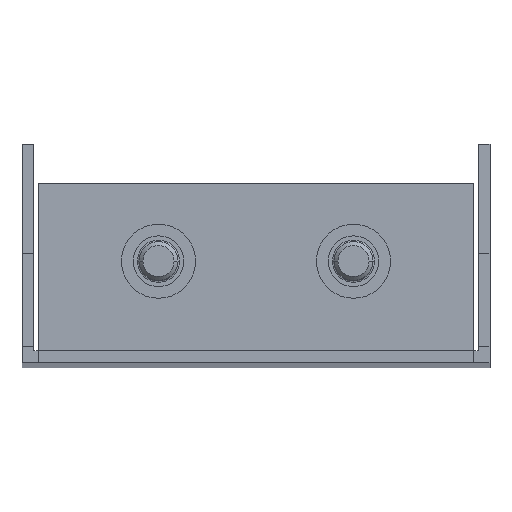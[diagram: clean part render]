
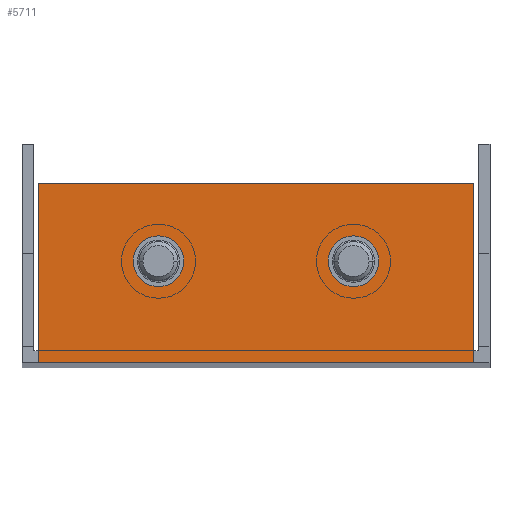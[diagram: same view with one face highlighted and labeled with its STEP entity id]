
A CAD part, top view. The second image highlights one B-rep face of the part: STEP entity #5711.
In plain terms, the highlighted planar face has unit normal (0, 0, 1).
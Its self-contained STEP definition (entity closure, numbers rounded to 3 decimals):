
#1570 = VERTEX_POINT('',#1571);
#1571 = CARTESIAN_POINT('',(-9.25,13.,194.5));
#1577 = EDGE_CURVE('',#1578,#1570,#1580,.T.);
#1578 = VERTEX_POINT('',#1579);
#1579 = CARTESIAN_POINT('',(-15.75,13.,194.5));
#1580 = CIRCLE('',#1581,3.25);
#1581 = AXIS2_PLACEMENT_3D('',#1582,#1583,#1584);
#1582 = CARTESIAN_POINT('',(-12.5,13.,194.5));
#1583 = DIRECTION('',(0.,0.,1.));
#1584 = DIRECTION('',(1.,0.,-0.));
#1612 = VERTEX_POINT('',#1613);
#1613 = CARTESIAN_POINT('',(15.75,13.,194.5));
#1619 = EDGE_CURVE('',#1620,#1612,#1622,.T.);
#1620 = VERTEX_POINT('',#1621);
#1621 = CARTESIAN_POINT('',(9.25,13.,194.5));
#1622 = CIRCLE('',#1623,3.25);
#1623 = AXIS2_PLACEMENT_3D('',#1624,#1625,#1626);
#1624 = CARTESIAN_POINT('',(12.5,13.,194.5));
#1625 = DIRECTION('',(0.,0.,1.));
#1626 = DIRECTION('',(-1.,0.,0.));
#3709 = VERTEX_POINT('',#3710);
#3710 = CARTESIAN_POINT('',(-27.9,0.,194.5));
#3780 = VERTEX_POINT('',#3781);
#3781 = CARTESIAN_POINT('',(27.9,0.,194.5));
#3787 = EDGE_CURVE('',#3709,#3780,#3788,.T.);
#3788 = LINE('',#3789,#3790);
#3789 = CARTESIAN_POINT('',(-30.,0.,194.5));
#3790 = VECTOR('',#3791,1.);
#3791 = DIRECTION('',(1.,0.,0.));
#5590 = VERTEX_POINT('',#5591);
#5591 = CARTESIAN_POINT('',(-27.9,2.1,194.5));
#5606 = EDGE_CURVE('',#5590,#3709,#5607,.T.);
#5607 = LINE('',#5608,#5609);
#5608 = CARTESIAN_POINT('',(-27.9,2.1,194.5));
#5609 = VECTOR('',#5610,1.);
#5610 = DIRECTION('',(0.,-1.,0.));
#5630 = VERTEX_POINT('',#5631);
#5631 = CARTESIAN_POINT('',(27.9,2.1,194.5));
#5637 = EDGE_CURVE('',#5630,#3780,#5638,.T.);
#5638 = LINE('',#5639,#5640);
#5639 = CARTESIAN_POINT('',(27.9,0.,194.5));
#5640 = VECTOR('',#5641,1.);
#5641 = DIRECTION('',(-0.,-1.,-0.));
#5663 = VERTEX_POINT('',#5664);
#5664 = CARTESIAN_POINT('',(27.9,23.,194.5));
#5670 = EDGE_CURVE('',#5630,#5663,#5671,.T.);
#5671 = LINE('',#5672,#5673);
#5672 = CARTESIAN_POINT('',(27.9,0.,194.5));
#5673 = VECTOR('',#5674,1.);
#5674 = DIRECTION('',(0.,1.,0.));
#5685 = EDGE_CURVE('',#5686,#5590,#5688,.T.);
#5686 = VERTEX_POINT('',#5687);
#5687 = CARTESIAN_POINT('',(-27.9,23.,194.5));
#5688 = LINE('',#5689,#5690);
#5689 = CARTESIAN_POINT('',(-27.9,0.,194.5));
#5690 = VECTOR('',#5691,1.);
#5691 = DIRECTION('',(0.,-1.,0.));
#5711 = ADVANCED_FACE('',(#5712,#5722,#5732),#5745,.F.);
#5712 = FACE_BOUND('',#5713,.T.);
#5713 = EDGE_LOOP('',(#5714,#5721));
#5714 = ORIENTED_EDGE('',*,*,#5715,.F.);
#5715 = EDGE_CURVE('',#1570,#1578,#5716,.T.);
#5716 = CIRCLE('',#5717,3.25);
#5717 = AXIS2_PLACEMENT_3D('',#5718,#5719,#5720);
#5718 = CARTESIAN_POINT('',(-12.5,13.,194.5));
#5719 = DIRECTION('',(0.,0.,1.));
#5720 = DIRECTION('',(1.,0.,-0.));
#5721 = ORIENTED_EDGE('',*,*,#1577,.F.);
#5722 = FACE_BOUND('',#5723,.T.);
#5723 = EDGE_LOOP('',(#5724,#5731));
#5724 = ORIENTED_EDGE('',*,*,#5725,.F.);
#5725 = EDGE_CURVE('',#1612,#1620,#5726,.T.);
#5726 = CIRCLE('',#5727,3.25);
#5727 = AXIS2_PLACEMENT_3D('',#5728,#5729,#5730);
#5728 = CARTESIAN_POINT('',(12.5,13.,194.5));
#5729 = DIRECTION('',(0.,0.,1.));
#5730 = DIRECTION('',(-1.,0.,0.));
#5731 = ORIENTED_EDGE('',*,*,#1619,.F.);
#5732 = FACE_BOUND('',#5733,.T.);
#5733 = EDGE_LOOP('',(#5734,#5735,#5736,#5737,#5738,#5739));
#5734 = ORIENTED_EDGE('',*,*,#5685,.T.);
#5735 = ORIENTED_EDGE('',*,*,#5606,.T.);
#5736 = ORIENTED_EDGE('',*,*,#3787,.T.);
#5737 = ORIENTED_EDGE('',*,*,#5637,.F.);
#5738 = ORIENTED_EDGE('',*,*,#5670,.T.);
#5739 = ORIENTED_EDGE('',*,*,#5740,.T.);
#5740 = EDGE_CURVE('',#5663,#5686,#5741,.T.);
#5741 = LINE('',#5742,#5743);
#5742 = CARTESIAN_POINT('',(0.,23.,194.5));
#5743 = VECTOR('',#5744,1.);
#5744 = DIRECTION('',(-1.,0.,0.));
#5745 = PLANE('',#5746);
#5746 = AXIS2_PLACEMENT_3D('',#5747,#5748,#5749);
#5747 = CARTESIAN_POINT('',(0.,0.,194.5));
#5748 = DIRECTION('',(0.,0.,-1.));
#5749 = DIRECTION('',(-1.,0.,-0.));
